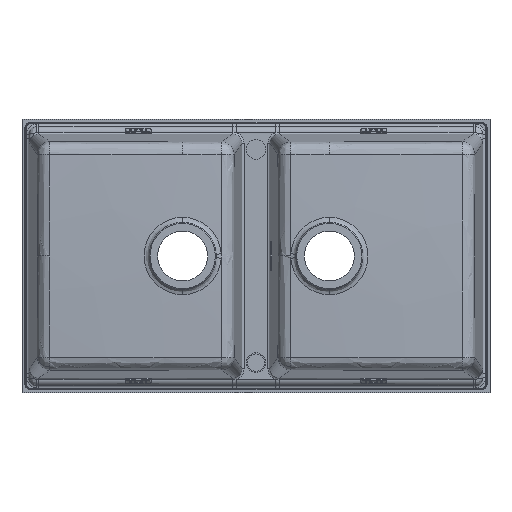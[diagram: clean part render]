
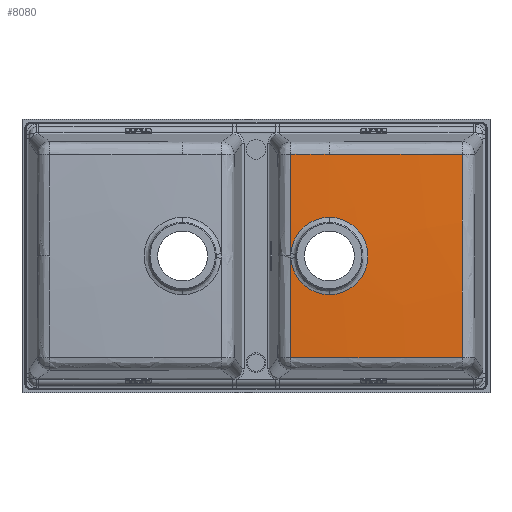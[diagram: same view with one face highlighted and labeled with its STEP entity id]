
A CAD part, front view. The second image highlights one B-rep face of the part: STEP entity #8080.
In plain terms, the highlighted free-form (B-spline) face has degree [3, 3] with [4, 4] control points.
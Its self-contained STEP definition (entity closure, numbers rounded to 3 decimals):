
#460 = CARTESIAN_POINT ( 'NONE',  ( 130.97, -197.505, 68.956 ) ) ;
#573 = AXIS2_PLACEMENT_3D ( 'NONE', #12611, #19309, #12796 ) ;
#587 = CIRCLE ( 'NONE', #25201, 4770.481 ) ;
#782 = DIRECTION ( 'NONE',  ( -0.996, -0.087, 0. ) ) ;
#853 = FACE_OUTER_BOUND ( 'NONE', #20346, .T. ) ;
#1687 = CARTESIAN_POINT ( 'NONE',  ( 349.181, -191.205, 192.494 ) ) ;
#1879 = CARTESIAN_POINT ( 'NONE',  ( -27.111, -192.707, -160.867 ) ) ;
#2028 = ORIENTED_EDGE ( 'NONE', *, *, #2638, .T. ) ;
#2099 = CARTESIAN_POINT ( 'NONE',  ( 130.97, -197.505, -68.956 ) ) ;
#2638 = EDGE_CURVE ( 'NONE', #20042, #15456, #24247, .T. ) ;
#2762 = CARTESIAN_POINT ( 'NONE',  ( 368.707, -188.671, -181.94 ) ) ;
#3437 = CARTESIAN_POINT ( 'NONE',  ( -354.764, 4567.504, 0. ) ) ;
#3455 = CARTESIAN_POINT ( 'NONE',  ( 176.208, -201.094, 90.365 ) ) ;
#3575 = ORIENTED_EDGE ( 'NONE', *, *, #14271, .T. ) ;
#3916 = CARTESIAN_POINT ( 'NONE',  ( 388.713, -191.573, -129.853 ) ) ;
#4073 = ORIENTED_EDGE ( 'NONE', *, *, #12655, .T. ) ;
#4170 = VERTEX_POINT ( 'NONE', #2099 ) ;
#4188 = DIRECTION ( 'NONE',  ( 0., 0.087, -0.996 ) ) ;
#4324 = CARTESIAN_POINT ( 'NONE',  ( 130.97, 4557.752, 597.198 ) ) ;
#5047 = CARTESIAN_POINT ( 'NONE',  ( 130.97, -197.505, 0. ) ) ;
#5844 = CARTESIAN_POINT ( 'NONE',  ( 130.97, -197.505, 0. ) ) ;
#6250 = CARTESIAN_POINT ( 'NONE',  ( 130.97, 4557.752, 597.198 ) ) ;
#6743 = EDGE_CURVE ( 'NONE', #23999, #20444, #19673, .T. ) ;
#7197 = DIRECTION ( 'NONE',  ( 0., 0., 1. ) ) ;
#7402 = CARTESIAN_POINT ( 'NONE',  ( -354.764, 4567.504, 0. ) ) ;
#7446 = DIRECTION ( 'NONE',  ( -0.996, -0.087, 0. ) ) ;
#7749 = CARTESIAN_POINT ( 'NONE',  ( 435.082, -190.607, 9.369 ) ) ;
#8080 = ADVANCED_FACE ( 'NONE', ( #853 ), #11108, .T. ) ;
#8208 = VERTEX_POINT ( 'NONE', #460 ) ;
#8401 = CIRCLE ( 'NONE', #573, 4763.167 ) ;
#8971 = EDGE_CURVE ( 'NONE', #23999, #26219, #9566, .T. ) ;
#9448 = AXIS2_PLACEMENT_3D ( 'NONE', #5844, #22735, #22827 ) ;
#9566 = CIRCLE ( 'NONE', #15834, 4783.212 ) ;
#9901 = CARTESIAN_POINT ( 'NONE',  ( 8.653, -198.647, -18.671 ) ) ;
#9975 = CIRCLE ( 'NONE', #9448, 68.956 ) ;
#10542 = CARTESIAN_POINT ( 'NONE',  ( 97.295, -195.75, -192.283 ) ) ;
#11108 =( BOUNDED_SURFACE ( )  B_SPLINE_SURFACE ( 3, 3, ( 
 ( #16426, #22766, #1687, #24730 ),
 ( #11939, #3455, #20524, #7749 ),
 ( #9901, #24814, #12038, #3916 ),
 ( #1879, #10542, #27587, #25297 ) ),
 .UNSPECIFIED., .F., .F., .F. ) 
 B_SPLINE_SURFACE_WITH_KNOTS ( ( 4, 4 ),
 ( 4, 4 ),
 ( 0., 1. ),
 ( 0., 1. ),
 .UNSPECIFIED. ) 
 GEOMETRIC_REPRESENTATION_ITEM ( )  RATIONAL_B_SPLINE_SURFACE ( (
 ( 1., 0.999, 0.999, 1.),
 ( 0.999, 0.998, 0.998, 0.999),
 ( 0.999, 0.998, 0.998, 0.999),
 ( 1., 0.999, 0.999, 1.) ) ) 
 REPRESENTATION_ITEM ( '' )  SURFACE ( )  );
#11245 = CIRCLE ( 'NONE', #24656, 68.956 ) ;
#11370 = CARTESIAN_POINT ( 'NONE',  ( 130.97, 4557.752, -597.198 ) ) ;
#11495 = CIRCLE ( 'NONE', #20280, 4783.212 ) ;
#11594 = DIRECTION ( 'NONE',  ( 0.087, -0.996, 0. ) ) ;
#11939 = CARTESIAN_POINT ( 'NONE',  ( 44.599, -197.875, 123.6 ) ) ;
#12038 = CARTESIAN_POINT ( 'NONE',  ( 263.567, -199.42, -88.118 ) ) ;
#12104 = CARTESIAN_POINT ( 'NONE',  ( 62.121, -197.505, -3.822 ) ) ;
#12331 = CARTESIAN_POINT ( 'NONE',  ( 368.707, -188.671, 181.94 ) ) ;
#12611 = CARTESIAN_POINT ( 'NONE',  ( 783.541, 4552.907, 0. ) ) ;
#12655 = EDGE_CURVE ( 'NONE', #23119, #20042, #587, .T. ) ;
#12796 = DIRECTION ( 'NONE',  ( 0.087, 0.996, 0. ) ) ;
#13099 = CARTESIAN_POINT ( 'NONE',  ( 62.121, -197.505, 3.822 ) ) ;
#13203 = VERTEX_POINT ( 'NONE', #13099 ) ;
#14271 = EDGE_CURVE ( 'NONE', #4170, #26219, #11245, .T. ) ;
#14369 = ORIENTED_EDGE ( 'NONE', *, *, #17208, .F. ) ;
#15456 = VERTEX_POINT ( 'NONE', #19858 ) ;
#15595 = DIRECTION ( 'NONE',  ( 0., 0.996, -0.087 ) ) ;
#15834 = AXIS2_PLACEMENT_3D ( 'NONE', #7402, #782, #11594 ) ;
#16426 = CARTESIAN_POINT ( 'NONE',  ( 80.654, -190.392, 265.65 ) ) ;
#16630 = DIRECTION ( 'NONE',  ( 0., 0., 1. ) ) ;
#16991 = DIRECTION ( 'NONE',  ( 0., -0.996, -0.087 ) ) ;
#17208 = EDGE_CURVE ( 'NONE', #13203, #15456, #11495, .T. ) ;
#17956 = ORIENTED_EDGE ( 'NONE', *, *, #26190, .T. ) ;
#18491 = CARTESIAN_POINT ( 'NONE',  ( 130.97, -197.505, 0. ) ) ;
#18779 = DIRECTION ( 'NONE',  ( 0., 1., 0. ) ) ;
#19309 = DIRECTION ( 'NONE',  ( -0.996, 0.087, 0. ) ) ;
#19366 = DIRECTION ( 'NONE',  ( 0., -0.996, -0.087 ) ) ;
#19673 = CIRCLE ( 'NONE', #21913, 4770.481 ) ;
#19858 = CARTESIAN_POINT ( 'NONE',  ( 61.821, -194.077, 181.467 ) ) ;
#19892 = ORIENTED_EDGE ( 'NONE', *, *, #22878, .T. ) ;
#19999 = DIRECTION ( 'NONE',  ( 0., 1., 0. ) ) ;
#20042 = VERTEX_POINT ( 'NONE', #24699 ) ;
#20137 = DIRECTION ( 'NONE',  ( 0., 0.087, 0.996 ) ) ;
#20280 = AXIS2_PLACEMENT_3D ( 'NONE', #3437, #7446, #26833 ) ;
#20346 = EDGE_LOOP ( 'NONE', ( #23555, #4073, #2028, #14369, #19892, #17956, #3575, #23951, #27145 ) ) ;
#20444 = VERTEX_POINT ( 'NONE', #2762 ) ;
#20524 = CARTESIAN_POINT ( 'NONE',  ( 306.504, -198.668, 52.249 ) ) ;
#21279 = EDGE_CURVE ( 'NONE', #20444, #23119, #8401, .T. ) ;
#21900 = CARTESIAN_POINT ( 'NONE',  ( 61.821, -194.077, -181.467 ) ) ;
#21913 = AXIS2_PLACEMENT_3D ( 'NONE', #11370, #20137, #15595 ) ;
#22735 = DIRECTION ( 'NONE',  ( 0., 1., 0. ) ) ;
#22766 = CARTESIAN_POINT ( 'NONE',  ( 215.59, -193.692, 231.574 ) ) ;
#22827 = DIRECTION ( 'NONE',  ( 0., 0., 1. ) ) ;
#22878 = EDGE_CURVE ( 'NONE', #13203, #8208, #25377, .T. ) ;
#23119 = VERTEX_POINT ( 'NONE', #12331 ) ;
#23555 = ORIENTED_EDGE ( 'NONE', *, *, #21279, .T. ) ;
#23951 = ORIENTED_EDGE ( 'NONE', *, *, #8971, .F. ) ;
#23999 = VERTEX_POINT ( 'NONE', #21900 ) ;
#24247 = CIRCLE ( 'NONE', #26869, 4770.481 ) ;
#24656 = AXIS2_PLACEMENT_3D ( 'NONE', #18491, #18779, #16630 ) ;
#24699 = CARTESIAN_POINT ( 'NONE',  ( 130.97, -194.576, 181.423 ) ) ;
#24730 = CARTESIAN_POINT ( 'NONE',  ( 481.01, -182.94, 148.53 ) ) ;
#24814 = CARTESIAN_POINT ( 'NONE',  ( 136.749, -201.78, -51.019 ) ) ;
#25201 = AXIS2_PLACEMENT_3D ( 'NONE', #4324, #25627, #19366 ) ;
#25297 = CARTESIAN_POINT ( 'NONE',  ( 342., -185.837, -268.846 ) ) ;
#25377 = CIRCLE ( 'NONE', #26198, 68.956 ) ;
#25627 = DIRECTION ( 'NONE',  ( 0., 0.087, -0.996 ) ) ;
#26190 = EDGE_CURVE ( 'NONE', #8208, #4170, #9975, .T. ) ;
#26198 = AXIS2_PLACEMENT_3D ( 'NONE', #5047, #19999, #7197 ) ;
#26219 = VERTEX_POINT ( 'NONE', #12104 ) ;
#26833 = DIRECTION ( 'NONE',  ( 0.087, -0.996, 0. ) ) ;
#26869 = AXIS2_PLACEMENT_3D ( 'NONE', #6250, #4188, #16991 ) ;
#27145 = ORIENTED_EDGE ( 'NONE', *, *, #6743, .T. ) ;
#27587 = CARTESIAN_POINT ( 'NONE',  ( 220.46, -193.457, -228.313 ) ) ;
